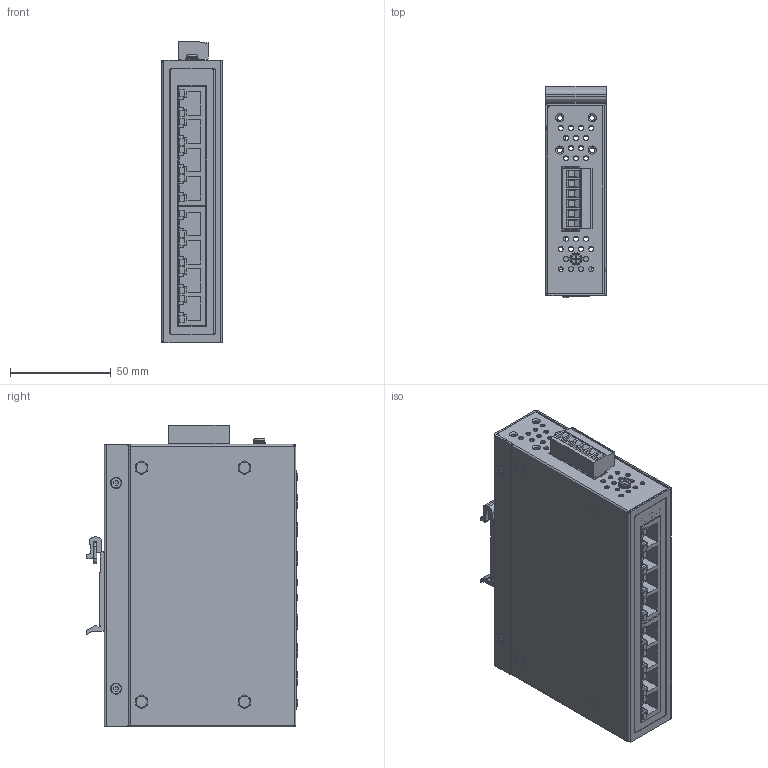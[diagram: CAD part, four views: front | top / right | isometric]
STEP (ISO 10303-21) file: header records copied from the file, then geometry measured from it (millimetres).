
FILE_DESCRIPTION(/* description */ ('STEP AP242','CAx-IF Rec.Pracs.---Representation and Presentation of Product Manufacturing Information (PMI)---4.0---2014-10-13','CAx-IF Rec.Pracs.---3D Tessellated Geometry---0.4---2014-09-14','2;1'),/* implementation_level */ '2;1');
FILE_NAME(/* name */ '67f410c1e485c0595a2c7c4a',/* time_stamp */ '2025-04-07T17:52:02Z',/* author */ (''),/* organization */ (''),/* preprocessor_version */ 'ST-DEVELOPER v20',/* originating_system */ 'ONSHAPE BY PTC INC, 1.196',/* authorisation */ ' ');
FILE_SCHEMA (('AP242_MANAGED_MODEL_BASED_3D_ENGINEERING_MIM_LF { 1 0 10303 442 1 1 4 }'));
Length unit declared in the file: metre
Products named in the file (30): ETH-8G-1 - Industrial 8 Port Gigabit Ethernet Switch; PRT0002; PRT0011_2; PRT0014; PRT0011_3; PRT0011_4; PRT0009; PRT0013; PRT0012; PRT0004_7; PRT0001; PRT0008_1; PRT0010_2; PRT0003; PRT0011_1; PRT0007; PRT0004_3; PRT0004_4; PRT0011; PRT0006; PRT0005; PRT0004_1; PRT0010_1; PRT0010_3; PRT0010; PRT0008; PRT0004; PRT0004_5; PRT0004_2; PRT0004_6
Assembly tree (29 placements, depth 2):
  ETH-8G-1 - Industrial 8 Port Gigabit Ethernet Switch
    PRT0002
    PRT0011_2
    PRT0014
    PRT0011_3
    PRT0011_4
    PRT0009
    PRT0013
    PRT0012
    PRT0004_7
    PRT0001
    PRT0008_1
    PRT0010_2
    PRT0003
    PRT0011_1
    PRT0007
    PRT0004_3
    PRT0004_4
    PRT0011
    PRT0006
    PRT0005
    PRT0004_1
    PRT0010_1
    PRT0010_3
    PRT0010
    PRT0008
    PRT0004
    PRT0004_5
    PRT0004_2
    PRT0004_6
Bounding box: 30 x 104.8 x 149.64 mm (x, y, z)
Volume: 76296.8 mm3; surface area: 112432.9 mm2
Topology: 29 solids, 29 shells, 1806 faces, 4654 edges, 2983 vertices
Faces by surface type: plane 1140, cylinder 447, torus 101, cone 85, sphere 31, bspline 2
Full cylindrical faces by diameter (mm): 0.9 x6, 1.4 x12, 1.5 x1, 2.4 x81, 2.5 x22, 2.8 x5, 2.9 x8, 3 x10, 3.2 x4, 3.5 x2, 3.783 x6, 4 x9, 4.1 x14, 5 x5, 5.4 x8, 5.5 x5, 6.3 x4
Entity records: 54856 total; most frequent: CARTESIAN_POINT 11553, DIRECTION 8881, ORIENTED_EDGE 8256, EDGE_CURVE 4128, AXIS2_PLACEMENT_3D 2989, LINE 2903, VECTOR 2903, VERTEX_POINT 2803
